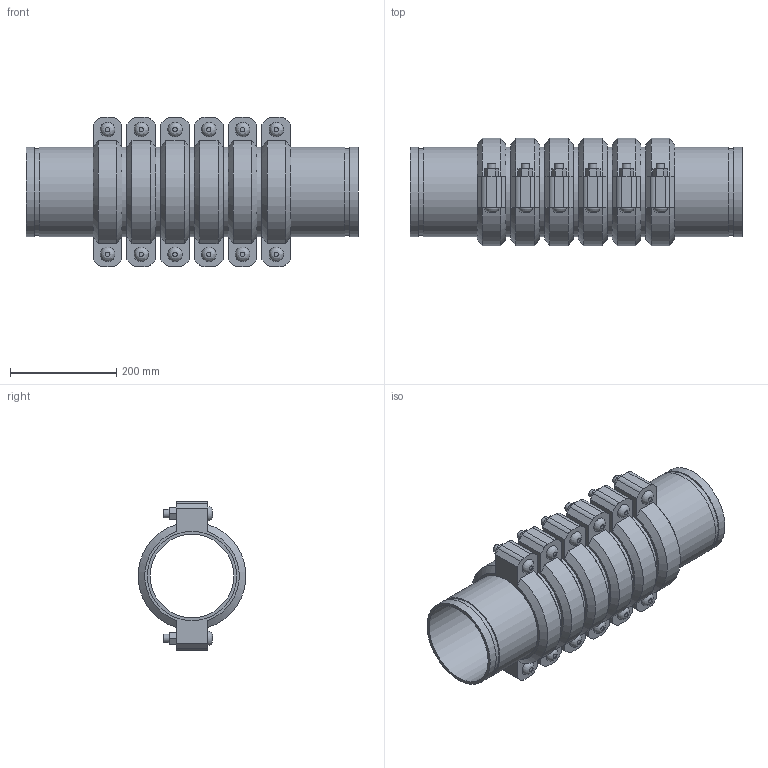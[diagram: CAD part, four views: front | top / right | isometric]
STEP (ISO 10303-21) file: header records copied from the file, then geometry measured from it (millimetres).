
FILE_DESCRIPTION(/* description */ ('VIC SS EXPANSION JOINT 6 COUPLINGS NEUTRAL STYLE 155P (OGS) (POTABLE WATER) ','CAx-IF Rec.Pracs.---Representation and Presentation of Product Manufacturing Information (PMI)---4.0---2014-10-13'),/* implementation_level */ '2;1');
FILE_NAME(/* name */ 'C:\Users\kkamble\AppData\Roaming\Autodesk\ApplicationPlugins\Victaulic.Temp\A292\Victaulic_SS_Expansion Joint_Neutral_6 Couplings_Style 155P (OGS)-Potable Water_6 Coup_Neut_6 (150).stp',/* time_stamp */ '2021-07-16T16:36:11+05:00',/* author */ ('kkamble'),/* organization */ ('Victaulic'),/* preprocessor_version */ 'ST-DEVELOPER v17.2',/* originating_system */ 'Autodesk Inventor 2019',/* authorisation */ '');
FILE_SCHEMA (('AP242_MANAGED_MODEL_BASED_3D_ENGINEERING_MIM_LF { 1 0 10303 442 1 1 4 }'));
Length unit declared in the file: inch
Products named in the file (4): 155-06.0; Nipple-06.0; Nipple-06.0_1; 075-06.0
Assembly tree (13 placements, depth 2):
  155-06.0
    Nipple-06.0  x2
    Nipple-06.0_1  x5
    075-06.0  x6
Bounding box: 625.35 x 202.46 x 281.18 mm (x, y, z)
Volume: 6106172.7 mm3; surface area: 1369341.4 mm2
Topology: 13 solids, 25 shells, 426 faces, 1008 edges, 708 vertices
Faces by surface type: plane 258, cylinder 132, cone 24, bspline 12
Full cylindrical faces by diameter (mm): 15.875 x24, 17.424 x12, 157.15 x7, 161.925 x6, 163.957 x14, 168.275 x33
Entity records: 2817 total; most frequent: CARTESIAN_POINT 497, DIRECTION 469, ORIENTED_EDGE 386, EDGE_CURVE 193, AXIS2_PLACEMENT_3D 188, VERTEX_POINT 138, EDGE_LOOP 107, LINE 93
